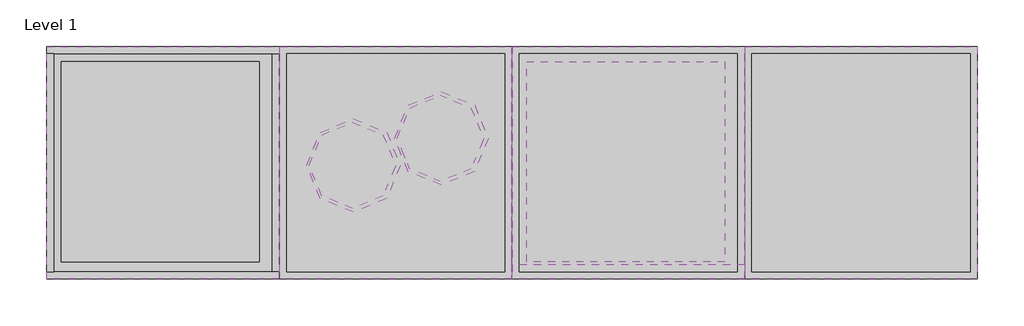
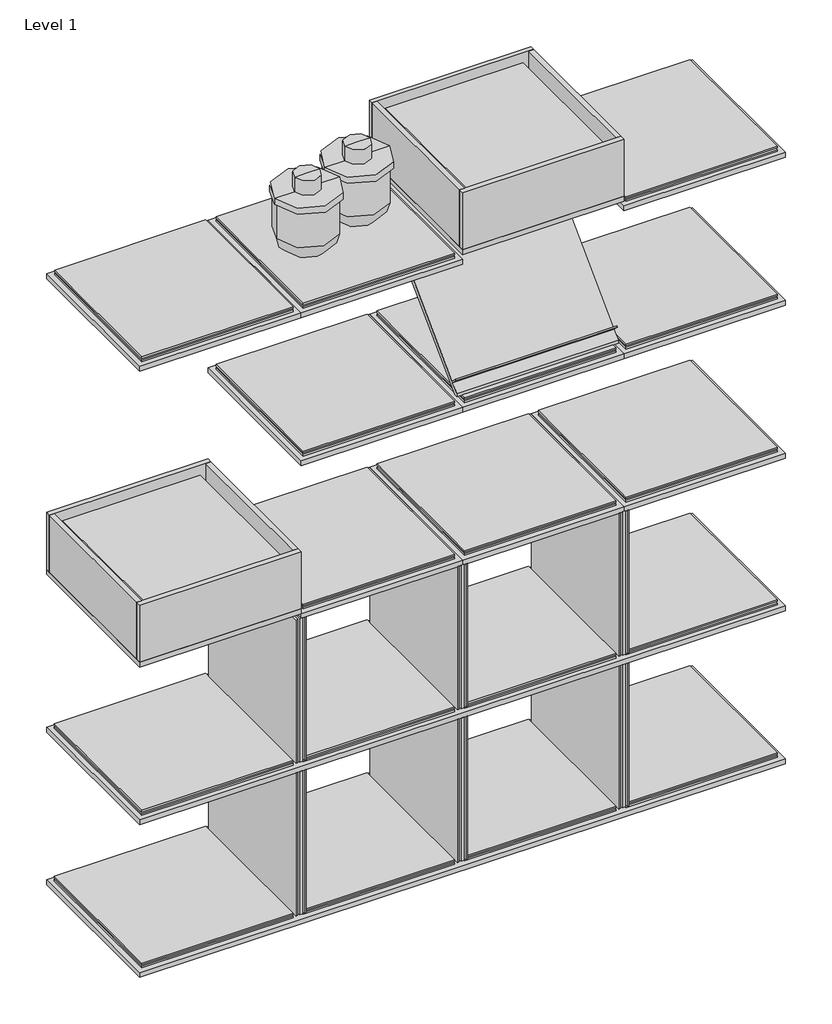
# One storey, incomplete: 20 furniture elements, 4 proxies, 2 geographic elements.
"""IFC4 building model written with IfcOpenShell, lengths in millimetres."""

from ifc_helpers import new_model, si_unit, origin, place, context, project, spatial, transform, mapped, element, save
from components import generic_models_29f3e5fd, generic_models_bc746b38, furniture_shelving_storage_grid_double_side_colour_black_ral_d8258e37, furniture_shelving_storage_grid_top_base_panel_size_and_cf4f366d, furniture_shelving_storage_grid_top_base_panel_size_and_bb9ed435, furniture_shelving_storage_grid_top_box_colour_oak_e10ae7cb, size_1x1_colour_black_ral_9011_5a1d2a69, only_plant_only_plant_8fcf59e9

model = new_model("IFC4")

# Units and contexts
model_context = context("Model", 3, world=origin())
ifc_project = project(units=[si_unit("LENGTHUNIT", "METRE", prefix="MILLI")], contexts=[model_context])

# Site, building, storey
site = spatial("IfcSite", under=ifc_project)
building = spatial("IfcBuilding", under=site)
storey = spatial("IfcBuildingStorey", under=building, Name="Level 1", Elevation=0.0)

# Proxies
placement = place(None, origin())
generic_models_shape = generic_models_29f3e5fd(model_context)
element("IfcBuildingElementProxy", 1, Name="mug Showpeace : mug Showpeace", ObjectType="mug Showpeace : mug Showpeace", at=placement, inside=storey, context=model_context, shape_type="MappedRepresentation", body=[
    mapped(generic_models_shape, transform((1011.1959589, 242.5000002, 948.9896903), x_axis=(1.0, 0.0, 0.0), y_axis=(0.0, 1.0, 0.0), z_axis=(0.0, 0.0, 1.0))),
])
element("IfcBuildingElementProxy", 2, Name="mug Showpeace : mug Showpeace", ObjectType="mug Showpeace : mug Showpeace", at=placement, inside=storey, context=model_context, shape_type="MappedRepresentation", body=[
    mapped(generic_models_shape, transform((859.6115761, 195.8407425, 948.9896903), x_axis=(1.0, 0.0, 0.0), y_axis=(0.0, 1.0, 0.0), z_axis=(0.0, 0.0, 1.0))),
])
generic_models_2_shape = generic_models_bc746b38(model_context)
element("IfcBuildingElementProxy", 3, Name="mug Showpeace : mug Showpeace", ObjectType="mug Showpeace : mug Showpeace", at=placement, inside=storey, context=model_context, shape_type="MappedRepresentation", body=[
    mapped(generic_models_2_shape, transform((1011.1959589, 242.5000002, 948.9896903), x_axis=(1.0, 0.0, 0.0), y_axis=(0.0, 1.0, 0.0), z_axis=(0.0, 0.0, 1.0))),
])
element("IfcBuildingElementProxy", 4, Name="mug Showpeace : mug Showpeace", ObjectType="mug Showpeace : mug Showpeace", at=placement, inside=storey, context=model_context, shape_type="MappedRepresentation", body=[
    mapped(generic_models_2_shape, transform((859.6115761, 195.8407425, 948.9896903), x_axis=(1.0, 0.0, 0.0), y_axis=(0.0, 1.0, 0.0), z_axis=(0.0, 0.0, 1.0))),
])

# Furniture
furniture_shelving_storage_grid_double_side_colour_black_ral_shape = furniture_shelving_storage_grid_double_side_colour_black_ral_d8258e37(model_context)
element("IfcFurniture", 5, ObjectType="Furniture_Shelving-Storage_Grid_Double-Side : Colour - (Black RAL 9011)", at=placement, inside=storey, context=model_context, shape_type="MappedRepresentation", body=[
    mapped(furniture_shelving_storage_grid_double_side_colour_black_ral_shape, transform((538.4219996, 187.9998998, 77.8092697), x_axis=(1.0, 0.0, 0.0), y_axis=(0.0, 1.0, 0.0), z_axis=(0.0, 0.0, 1.0))),
])
element("IfcFurniture", 6, ObjectType="Furniture_Shelving-Storage_Grid_Double-Side : Colour - (Black RAL 9011)", at=placement, inside=storey, context=model_context, shape_type="MappedRepresentation", body=[
    mapped(furniture_shelving_storage_grid_double_side_colour_black_ral_shape, transform((939.4224237, 187.9998998, 77.8092697), x_axis=(1.0, 0.0, 0.0), y_axis=(0.0, 1.0, 0.0), z_axis=(0.0, 0.0, 1.0))),
])
element("IfcFurniture", 7, ObjectType="Furniture_Shelving-Storage_Grid_Double-Side : Colour - (Black RAL 9011)", at=placement, inside=storey, context=model_context, shape_type="MappedRepresentation", body=[
    mapped(furniture_shelving_storage_grid_double_side_colour_black_ral_shape, transform((1340.4224237, 187.9998998, 77.8092697), x_axis=(1.0, 0.0, 0.0), y_axis=(0.0, 1.0, 0.0), z_axis=(0.0, 0.0, 1.0))),
])
element("IfcFurniture", 8, ObjectType="Furniture_Shelving-Storage_Grid_Double-Side : Colour - (Black RAL 9011)", at=placement, inside=storey, context=model_context, shape_type="MappedRepresentation", body=[
    mapped(furniture_shelving_storage_grid_double_side_colour_black_ral_shape, transform((538.4219996, 187.9998998, 478.8092697), x_axis=(1.0, 0.0, 0.0), y_axis=(0.0, 1.0, 0.0), z_axis=(0.0, 0.0, 1.0))),
])
element("IfcFurniture", 9, ObjectType="Furniture_Shelving-Storage_Grid_Double-Side : Colour - (Black RAL 9011)", at=placement, inside=storey, context=model_context, shape_type="MappedRepresentation", body=[
    mapped(furniture_shelving_storage_grid_double_side_colour_black_ral_shape, transform((939.4224237, 187.9998998, 478.8092697), x_axis=(1.0, 0.0, 0.0), y_axis=(0.0, 1.0, 0.0), z_axis=(0.0, 0.0, 1.0))),
])
element("IfcFurniture", 10, ObjectType="Furniture_Shelving-Storage_Grid_Double-Side : Colour - (Black RAL 9011)", at=placement, inside=storey, context=model_context, shape_type="MappedRepresentation", body=[
    mapped(furniture_shelving_storage_grid_double_side_colour_black_ral_shape, transform((1340.4224237, 187.9998998, 478.8092697), x_axis=(1.0, 0.0, 0.0), y_axis=(0.0, 1.0, 0.0), z_axis=(0.0, 0.0, 1.0))),
])
furniture_shelving_storage_grid_top_base_panel_size_and_shape = furniture_shelving_storage_grid_top_base_panel_size_and_cf4f366d(model_context)
element("IfcFurniture", 11, ObjectType="Furniture_Shelving-Storage_Grid_Top-Base-Panel : Size and color - (1x1 Black RAL 9011)", at=placement, inside=storey, context=model_context, shape_type="MappedRepresentation", body=[
    mapped(furniture_shelving_storage_grid_top_base_panel_size_and_shape, transform((739.1224032, 200.4995461, 1268.5092697), x_axis=(1.0, 0.0, 0.0), y_axis=(0.0, 1.0, 0.0), z_axis=(0.0, 0.0, 1.0))),
])
element("IfcFurniture", 12, ObjectType="Furniture_Shelving-Storage_Grid_Top-Base-Panel : Size and color - (1x1 Black RAL 9011)", at=placement, inside=storey, context=model_context, shape_type="MappedRepresentation", body=[
    mapped(furniture_shelving_storage_grid_top_base_panel_size_and_shape, transform((1139.922429, 200.4995461, 1268.5092697), x_axis=(1.0, 0.0, 0.0), y_axis=(0.0, 1.0, 0.0), z_axis=(0.0, 0.0, 1.0))),
])
element("IfcFurniture", 13, ObjectType="Furniture_Shelving-Storage_Grid_Top-Base-Panel : Size and color - (1x1 Black RAL 9011)", at=placement, inside=storey, context=model_context, shape_type="MappedRepresentation", body=[
    mapped(furniture_shelving_storage_grid_top_base_panel_size_and_shape, transform((1540.9224032, 200.4995461, 1268.5092697), x_axis=(1.0, 0.0, 0.0), y_axis=(0.0, 1.0, 0.0), z_axis=(0.0, 0.0, 1.0))),
])
element("IfcFurniture", 14, ObjectType="Furniture_Shelving-Storage_Grid_Top-Base-Panel : Size and color - (1x1 Black RAL 9011)", at=placement, inside=storey, context=model_context, shape_type="MappedRepresentation", body=[
    mapped(furniture_shelving_storage_grid_top_base_panel_size_and_shape, transform((739.1224032, 200.4995461, 1656.5092697), x_axis=(1.0, 0.0, 0.0), y_axis=(0.0, 1.0, 0.0), z_axis=(0.0, 0.0, 1.0))),
])
element("IfcFurniture", 15, ObjectType="Furniture_Shelving-Storage_Grid_Top-Base-Panel : Size and color - (1x1 Black RAL 9011)", at=placement, inside=storey, context=model_context, shape_type="MappedRepresentation", body=[
    mapped(furniture_shelving_storage_grid_top_base_panel_size_and_shape, transform((1540.9224032, 200.4995461, 1656.5092697), x_axis=(1.0, 0.0, 0.0), y_axis=(0.0, 1.0, 0.0), z_axis=(0.0, 0.0, 1.0))),
])
element("IfcFurniture", 16, ObjectType="Furniture_Shelving-Storage_Grid_Top-Base-Panel : Size and color - (1x1 Black RAL 9011)", at=placement, inside=storey, context=model_context, shape_type="MappedRepresentation", body=[
    mapped(furniture_shelving_storage_grid_top_base_panel_size_and_shape, transform((338.1224032, 200.4995461, 1656.5092697), x_axis=(1.0, 0.0, 0.0), y_axis=(0.0, 1.0, 0.0), z_axis=(0.0, 0.0, 1.0))),
])
element("IfcFurniture", 17, ObjectType="Furniture_Shelving-Storage_Grid_Top-Base-Panel : Size and color - (1x1 Black RAL 9011)", at=placement, inside=storey, context=model_context, shape_type="MappedRepresentation", body=[
    mapped(furniture_shelving_storage_grid_top_base_panel_size_and_shape, transform((1139.922429, 200.4995461, 867.0092698), x_axis=(1.0, 0.0, 0.0), y_axis=(0.0, 1.0, 0.0), z_axis=(0.0, 0.0, 1.0))),
])
element("IfcFurniture", 18, ObjectType="Furniture_Shelving-Storage_Grid_Top-Base-Panel : Size and color - (1x1 Black RAL 9011)", at=placement, inside=storey, context=model_context, shape_type="MappedRepresentation", body=[
    mapped(furniture_shelving_storage_grid_top_base_panel_size_and_shape, transform((738.9224032, 200.4995461, 867.0092698), x_axis=(1.0, 0.0, 0.0), y_axis=(0.0, 1.0, 0.0), z_axis=(0.0, 0.0, 1.0))),
])
element("IfcFurniture", 19, ObjectType="Furniture_Shelving-Storage_Grid_Top-Base-Panel : Size and color - (1x1 Black RAL 9011)", at=placement, inside=storey, context=model_context, shape_type="MappedRepresentation", body=[
    mapped(furniture_shelving_storage_grid_top_base_panel_size_and_shape, transform((1540.922429, 200.4995461, 867.0092698), x_axis=(1.0, 0.0, 0.0), y_axis=(0.0, 1.0, 0.0), z_axis=(0.0, 0.0, 1.0))),
])
furniture_shelving_storage_grid_top_base_panel_size_and_2_shape = furniture_shelving_storage_grid_top_base_panel_size_and_bb9ed435(model_context)
element("IfcFurniture", 20, ObjectType="Furniture_Shelving-Storage_Grid_Top-Base-Panel : Size and color - (1x4 Black RAL 9011)", at=placement, inside=storey, context=model_context, shape_type="MappedRepresentation", body=[
    mapped(furniture_shelving_storage_grid_top_base_panel_size_and_2_shape, transform((1540.9216216, 200.5004543, 65.0092697), x_axis=(-1.0, 0.0, 0.0), y_axis=(0.0, -1.0, 0.0), z_axis=(0.0, 0.0, 1.0))),
])
element("IfcFurniture", 21, ObjectType="Furniture_Shelving-Storage_Grid_Top-Base-Panel : Size and color - (1x4 Black RAL 9011)", at=placement, inside=storey, context=model_context, shape_type="MappedRepresentation", body=[
    mapped(furniture_shelving_storage_grid_top_base_panel_size_and_2_shape, transform((1540.9216216, 200.5004543, 466.0092698), x_axis=(-1.0, 0.0, 0.0), y_axis=(0.0, -1.0, 0.0), z_axis=(0.0, 0.0, 1.0))),
])
furniture_shelving_storage_grid_top_box_colour_oak_shape = furniture_shelving_storage_grid_top_box_colour_oak_e10ae7cb(model_context)
element("IfcFurniture", 22, ObjectType="Furniture_Shelving-Storage_Grid_Top-Box : Colour - (Oak)", at=placement, inside=storey, context=model_context, shape_type="MappedRepresentation", body=[
    mapped(furniture_shelving_storage_grid_top_box_colour_oak_shape, transform((337.9168197, 200.5000002, 479.0092698), x_axis=(1.0, 0.0, 0.0), y_axis=(0.0, 1.0, 0.0), z_axis=(0.0, 0.0, 1.0))),
])
element("IfcFurniture", 23, ObjectType="Furniture_Shelving-Storage_Grid_Top-Box : Colour - (Oak)", at=placement, inside=storey, context=model_context, shape_type="MappedRepresentation", body=[
    mapped(furniture_shelving_storage_grid_top_box_colour_oak_shape, transform((1139.9167938, 200.5000002, 1281.0092698), x_axis=(1.0, 0.0, 0.0), y_axis=(0.0, 1.0, 0.0), z_axis=(0.0, 0.0, 1.0))),
])
size_1x1_colour_black_ral_9011_shape = size_1x1_colour_black_ral_9011_5a1d2a69(model_context)
element("IfcFurniture", 24, ObjectType="Furniture_Shelving-Storage_Grid_Magazine-Shelf : Size - (1x1) Colour - (Black RAL 9011)", at=placement, inside=storey, context=model_context, shape_type="MappedRepresentation", body=[
    mapped(size_1x1_colour_black_ral_9011_shape, transform((1139.9220252, 212.3500002, 1281.0051811), x_axis=(1.0, 0.0, 0.0), y_axis=(0.0, 1.0, 0.0), z_axis=(0.0, 0.0, 1.0))),
])

# Geographic elements
only_plant_only_plant_shape = only_plant_only_plant_8fcf59e9(model_context)
element("IfcGeographicElement", 25, ObjectType="Only Plant : Only Plant", at=placement, inside=storey, context=model_context, shape_type="MappedRepresentation", body=[
    mapped(only_plant_only_plant_shape, transform((327.822051, 196.6000002, 880.2092698), x_axis=(1.0, 0.0, 0.0), y_axis=(0.0, 1.0, 0.0), z_axis=(0.0, 0.0, 1.0))),
])
element("IfcGeographicElement", 26, ObjectType="Only Plant : Only Plant", at=placement, inside=storey, context=model_context, shape_type="MappedRepresentation", body=[
    mapped(only_plant_only_plant_shape, transform((1129.8220252, 196.6000002, 1682.2092697), x_axis=(1.0, 0.0, 0.0), y_axis=(0.0, 1.0, 0.0), z_axis=(0.0, 0.0, 1.0))),
])

save(model, "model.ifc")
